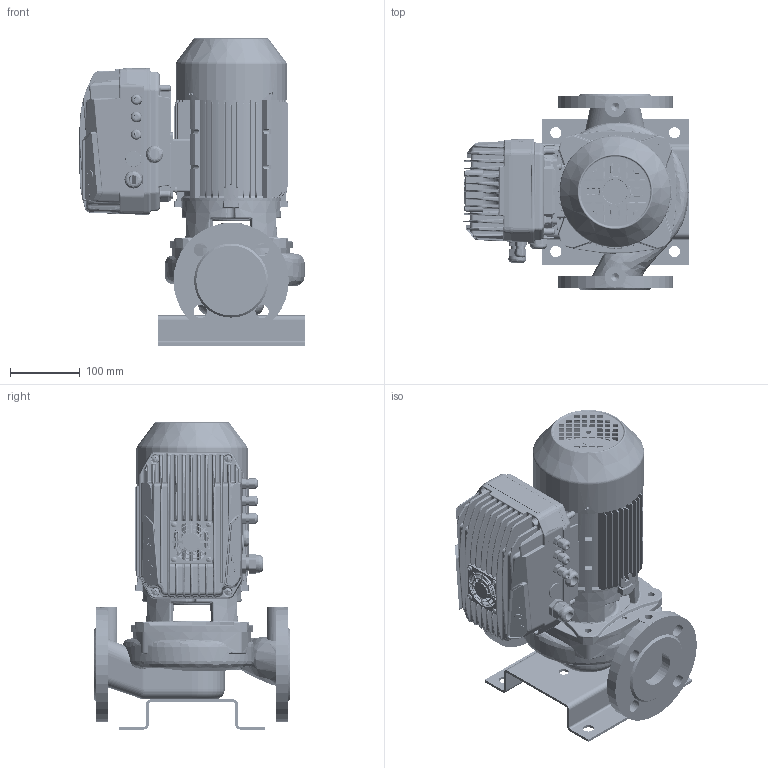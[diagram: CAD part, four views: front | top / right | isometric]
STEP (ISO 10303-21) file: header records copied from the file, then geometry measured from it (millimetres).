
FILE_DESCRIPTION(('STEP AP214'),'1');
FILE_NAME('export.stp','2022-09-19T09:17:58',(' '),(' '),'Spatial InterOp 3D',' ',' ');
FILE_SCHEMA(('AUTOMOTIVE_DESIGN { 1 0 10303 214 1 1 1 1 }'));
Length unit declared in the file: millimetre
Products named in the file (51): W_L50B2_XX_KP80; V_TLL50ABC; V_JALKA35973; V_AdapMida205_407; 210588; DIN_7985-M5X8; 160031; 160001; V_MKP80-2_F15; M5x8_DIN; 160141; M5x12_DIN; DIN_7985-M5X12; 160137; 160138; 160139; 160140; Koura_Ale_M5; Plug_Blind_M20; Sealing_Plug_M20; plain_washer_grade_a_din_Washer_; 160039___; 160040___; 160133; V_PPL50ABC; MIDA_180deg; BASE_MIDA_NASTEC_89; 3005020100_AF0_157; PRT0001; PRT0002; PRT0003; PRT0005; PRT0006; PRT0007; V4-25--_-_U7687_PZ_AF0_5; V4-25--_-_U7687_PZ_AF1_5; V4-25--_-_U7687_PZ_AF2_5; V4-25--_-_U7687_PZ_AF3_5; V5-30--_-_U7687_PZ_AF0_5; V5-30--_-_U7687_PZ_AF1_5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
Assembly tree (54 placements, depth 5):
  W_L50B2_XX_KP80
    V_TLL50ABC
    V_JALKA35973
    V_AdapMida205_407
      210588
      DIN_7985-M5X8  x2
    V_MKP80-2_F15
      160031
        160001
      160141
        M5x8_DIN
          DIN_7985-M5X8
        M5x12_DIN
          DIN_7985-M5X12
        M5x12_DIN
          DIN_7985-M5X12
        M5x12_DIN
          DIN_7985-M5X12
        M5x12_DIN
          DIN_7985-M5X12
        160137
        160138
        160139
        160140
        Koura_Ale_M5
        Plug_Blind_M20
        Sealing_Plug_M20
        plain_washer_grade_a_din_Washer_
      160039___
      160040___
      160133
    V_PPL50ABC
    Mida205
      MIDA_180deg
        BASE_MIDA_NASTEC_89
        3005020100_AF0_157
        PRT0001
        PRT0002
        PRT0003
        PRT0005
        PRT0006
        PRT0007
        V4-25--_-_U7687_PZ_AF0_5
        V4-25--_-_U7687_PZ_AF1_5
        V4-25--_-_U7687_PZ_AF2_5
        V4-25--_-_U7687_PZ_AF3_5
        V5-30--_-_U7687_PZ_AF0_5
        V5-30--_-_U7687_PZ_AF1_5
        V5-30--_-_U7687_PZ_AF2_5
        V5-30--_-_U7687_PZ_5
        2001300200_32
        TASTIERA_MIDA_2_44
        ETICHETTA_MIDA_9
        TAPPO_PRESSACAVO_M20_5
Bounding box: 322.22 x 280 x 439.5 mm (x, y, z)
Volume: 4432536.9 mm3; surface area: 1521605.1 mm2
Topology: 42 solids, 43 shells, 6583 faces, 16975 edges, 10459 vertices
Faces by surface type: plane 2255, cylinder 2048, bspline 1463, cone 418, torus 332, sphere 67
Entity records: 332947 total; most frequent: CARTESIAN_POINT 157027, ORIENTED_EDGE 33308, DIRECTION 24440, EDGE_CURVE 16658, VERTEX_POINT 10332, AXIS2_PLACEMENT_3D 9010, EDGE_LOOP 7005, LINE 6420
